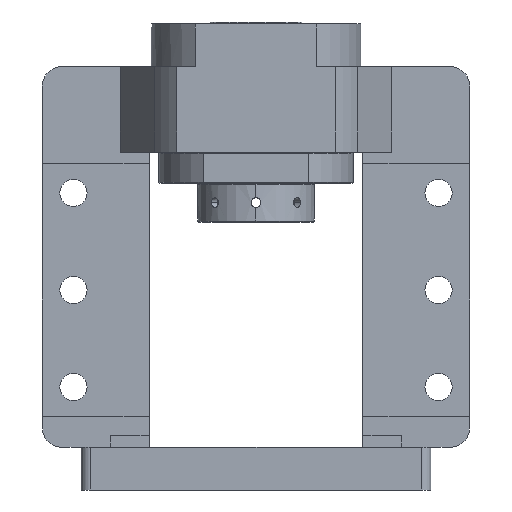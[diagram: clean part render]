
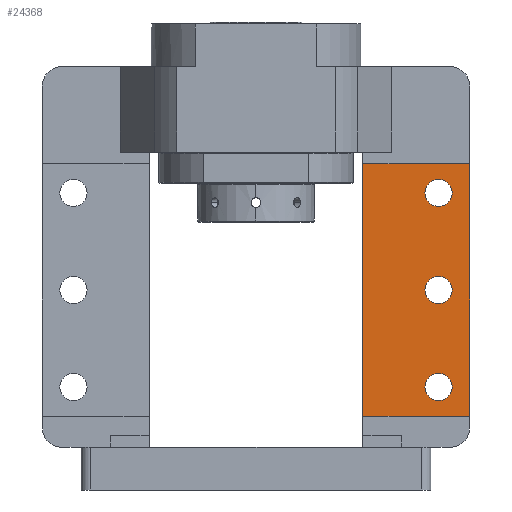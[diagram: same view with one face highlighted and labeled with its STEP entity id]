
A CAD part, front view. The second image highlights one B-rep face of the part: STEP entity #24368.
In plain terms, the highlighted planar face has unit normal (0, -1, 0).
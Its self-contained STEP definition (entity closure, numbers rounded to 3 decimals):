
#445 = DIRECTION ( 'NONE',  ( 0., 0., -1. ) ) ;
#501 = VERTEX_POINT ( 'NONE', #11586 ) ;
#696 = LINE ( 'NONE', #6918, #24987 ) ;
#748 = DIRECTION ( 'NONE',  ( 0., 0., -1. ) ) ;
#843 = CARTESIAN_POINT ( 'NONE',  ( 94., 0., 110. ) ) ;
#974 = CARTESIAN_POINT ( 'NONE',  ( 94., 0., 60. ) ) ;
#1375 = EDGE_CURVE ( 'NONE', #8981, #14713, #30045, .T. ) ;
#1602 = EDGE_CURVE ( 'NONE', #21120, #28186, #16205, .T. ) ;
#2254 = ORIENTED_EDGE ( 'NONE', *, *, #17616, .T. ) ;
#2961 = VERTEX_POINT ( 'NONE', #843 ) ;
#3427 = ORIENTED_EDGE ( 'NONE', *, *, #18987, .F. ) ;
#3953 = CARTESIAN_POINT ( 'NONE',  ( 110., 0., 225. ) ) ;
#4534 = DIRECTION ( 'NONE',  ( -1., 0., 0. ) ) ;
#5058 = ORIENTED_EDGE ( 'NONE', *, *, #1375, .F. ) ;
#5174 = ORIENTED_EDGE ( 'NONE', *, *, #26008, .F. ) ;
#5797 = AXIS2_PLACEMENT_3D ( 'NONE', #10619, #26922, #12979 ) ;
#6175 = CARTESIAN_POINT ( 'NONE',  ( 55., 0., 38. ) ) ;
#6282 = CARTESIAN_POINT ( 'NONE',  ( 110., 0., 38. ) ) ;
#6363 = DIRECTION ( 'NONE',  ( 0., 0., -1. ) ) ;
#6918 = CARTESIAN_POINT ( 'NONE',  ( 110., 0., 168. ) ) ;
#7069 = VECTOR ( 'NONE', #24994, 1000. ) ;
#7824 = ORIENTED_EDGE ( 'NONE', *, *, #1602, .T. ) ;
#8434 = ORIENTED_EDGE ( 'NONE', *, *, #8881, .F. ) ;
#8881 = EDGE_CURVE ( 'NONE', #2961, #501, #22569, .T. ) ;
#8981 = VERTEX_POINT ( 'NONE', #26149 ) ;
#9148 = VERTEX_POINT ( 'NONE', #28984 ) ;
#9269 = CARTESIAN_POINT ( 'NONE',  ( 55., 0., 168. ) ) ;
#9376 = VERTEX_POINT ( 'NONE', #20002 ) ;
#10048 = DIRECTION ( 'NONE',  ( 0., -1., 0. ) ) ;
#10619 = CARTESIAN_POINT ( 'NONE',  ( 94., 0., 53. ) ) ;
#10672 = AXIS2_PLACEMENT_3D ( 'NONE', #28621, #14651, #445 ) ;
#10973 = ORIENTED_EDGE ( 'NONE', *, *, #12040, .F. ) ;
#11349 = DIRECTION ( 'NONE',  ( 0., -1., 0. ) ) ;
#11432 = FACE_OUTER_BOUND ( 'NONE', #17563, .T. ) ;
#11586 = CARTESIAN_POINT ( 'NONE',  ( 94., 0., 96. ) ) ;
#11998 = AXIS2_PLACEMENT_3D ( 'NONE', #24023, #10048, #26364 ) ;
#12040 = EDGE_CURVE ( 'NONE', #501, #2961, #23302, .T. ) ;
#12079 = CARTESIAN_POINT ( 'NONE',  ( 94., 0., 103. ) ) ;
#12979 = DIRECTION ( 'NONE',  ( 0., 0., -1. ) ) ;
#13217 = EDGE_LOOP ( 'NONE', ( #27445, #5174 ) ) ;
#13301 = LINE ( 'NONE', #6282, #7069 ) ;
#13921 = ORIENTED_EDGE ( 'NONE', *, *, #27095, .F. ) ;
#14444 = DIRECTION ( 'NONE',  ( 0., 0., -1. ) ) ;
#14651 = DIRECTION ( 'NONE',  ( 0., -1., 0. ) ) ;
#14713 = VERTEX_POINT ( 'NONE', #16981 ) ;
#14870 = CARTESIAN_POINT ( 'NONE',  ( 94., 0., 46. ) ) ;
#14945 = DIRECTION ( 'NONE',  ( 0., -1., 0. ) ) ;
#15103 = DIRECTION ( 'NONE',  ( 0., 0., -1. ) ) ;
#16166 = CIRCLE ( 'NONE', #5797, 7. ) ;
#16205 = LINE ( 'NONE', #24359, #16941 ) ;
#16286 = CIRCLE ( 'NONE', #10672, 7. ) ;
#16941 = VECTOR ( 'NONE', #15103, 1000. ) ;
#16981 = CARTESIAN_POINT ( 'NONE',  ( 110., 0., 38. ) ) ;
#17229 = AXIS2_PLACEMENT_3D ( 'NONE', #25327, #11349, #27657 ) ;
#17381 = DIRECTION ( 'NONE',  ( 0., 0., -1. ) ) ;
#17563 = EDGE_LOOP ( 'NONE', ( #5058, #2254, #7824, #28740 ) ) ;
#17616 = EDGE_CURVE ( 'NONE', #8981, #21120, #696, .T. ) ;
#17639 = FACE_BOUND ( 'NONE', #13217, .T. ) ;
#18381 = FACE_BOUND ( 'NONE', #19417, .T. ) ;
#18535 = AXIS2_PLACEMENT_3D ( 'NONE', #28902, #14945, #748 ) ;
#18756 = EDGE_CURVE ( 'NONE', #23320, #23505, #16286, .T. ) ;
#18987 = EDGE_CURVE ( 'NONE', #9376, #9148, #20265, .T. ) ;
#19417 = EDGE_LOOP ( 'NONE', ( #10973, #8434 ) ) ;
#20002 = CARTESIAN_POINT ( 'NONE',  ( 94., 0., 146. ) ) ;
#20265 = CIRCLE ( 'NONE', #18535, 7. ) ;
#20385 = DIRECTION ( 'NONE',  ( 0., -1., 0. ) ) ;
#21120 = VERTEX_POINT ( 'NONE', #9269 ) ;
#22358 = EDGE_CURVE ( 'NONE', #28186, #14713, #13301, .T. ) ;
#22569 = CIRCLE ( 'NONE', #26404, 7. ) ;
#23302 = CIRCLE ( 'NONE', #11998, 7. ) ;
#23320 = VERTEX_POINT ( 'NONE', #14870 ) ;
#23505 = VERTEX_POINT ( 'NONE', #974 ) ;
#24023 = CARTESIAN_POINT ( 'NONE',  ( 94., 0., 103. ) ) ;
#24359 = CARTESIAN_POINT ( 'NONE',  ( 55., 0., 225. ) ) ;
#24368 = ADVANCED_FACE ( 'NONE', ( #30039, #17639, #18381, #11432 ), #24968, .T. ) ;
#24499 = CIRCLE ( 'NONE', #17229, 7. ) ;
#24968 = PLANE ( 'NONE',  #27949 ) ;
#24987 = VECTOR ( 'NONE', #4534, 1000. ) ;
#24994 = DIRECTION ( 'NONE',  ( 1., 0., 0. ) ) ;
#25327 = CARTESIAN_POINT ( 'NONE',  ( 94., 0., 153. ) ) ;
#25925 = EDGE_LOOP ( 'NONE', ( #3427, #13921 ) ) ;
#26008 = EDGE_CURVE ( 'NONE', #23505, #23320, #16166, .T. ) ;
#26149 = CARTESIAN_POINT ( 'NONE',  ( 110., 0., 168. ) ) ;
#26364 = DIRECTION ( 'NONE',  ( 0., 0., -1. ) ) ;
#26404 = AXIS2_PLACEMENT_3D ( 'NONE', #12079, #28401, #14444 ) ;
#26922 = DIRECTION ( 'NONE',  ( 0., -1., 0. ) ) ;
#27095 = EDGE_CURVE ( 'NONE', #9148, #9376, #24499, .T. ) ;
#27445 = ORIENTED_EDGE ( 'NONE', *, *, #18756, .F. ) ;
#27657 = DIRECTION ( 'NONE',  ( 0., 0., -1. ) ) ;
#27949 = AXIS2_PLACEMENT_3D ( 'NONE', #3953, #20385, #6363 ) ;
#28186 = VERTEX_POINT ( 'NONE', #6175 ) ;
#28401 = DIRECTION ( 'NONE',  ( 0., -1., 0. ) ) ;
#28621 = CARTESIAN_POINT ( 'NONE',  ( 94., 0., 53. ) ) ;
#28740 = ORIENTED_EDGE ( 'NONE', *, *, #22358, .T. ) ;
#28902 = CARTESIAN_POINT ( 'NONE',  ( 94., 0., 153. ) ) ;
#28984 = CARTESIAN_POINT ( 'NONE',  ( 94., 0., 160. ) ) ;
#28992 = CARTESIAN_POINT ( 'NONE',  ( 110., 0., 225. ) ) ;
#29308 = VECTOR ( 'NONE', #17381, 1000. ) ;
#30039 = FACE_BOUND ( 'NONE', #25925, .T. ) ;
#30045 = LINE ( 'NONE', #28992, #29308 ) ;
